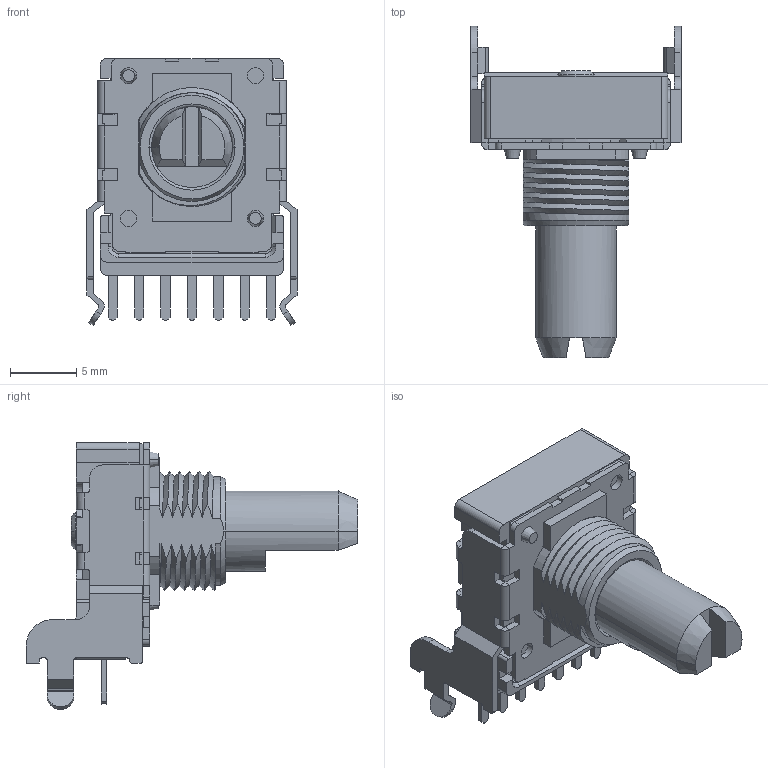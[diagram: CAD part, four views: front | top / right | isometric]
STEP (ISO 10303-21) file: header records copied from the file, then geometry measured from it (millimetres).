
FILE_DESCRIPTION (( 'STEP AP214' ), '1' );
FILE_NAME ('RK14K12-F22H.STEP', '2012-02-10T00:21:07', ( '' ), ( '' ), 'SwSTEP 2.0', 'SolidWorks 2010', '' );
FILE_SCHEMA (( 'AUTOMOTIVE_DESIGN' ));
Length unit declared in the file: millimetre
Products named in the file (1): RK14K12-F22H
Bounding box: 15.9 x 25.1 x 20.2 mm (x, y, z)
Volume: 1815.3 mm3; surface area: 1777.1 mm2
Topology: 1 solids, 1 shells, 535 faces, 1459 edges, 925 vertices
Faces by surface type: plane 370, cylinder 120, bspline 30, cone 13, torus 2
Entity records: 27415 total; most frequent: CARTESIAN_POINT 8227, ORIENTED_EDGE 2918, DIRECTION 2627, EDGE_CURVE 1459, LINE 1091, VECTOR 1091, VERTEX_POINT 925, AXIS2_PLACEMENT_3D 768
